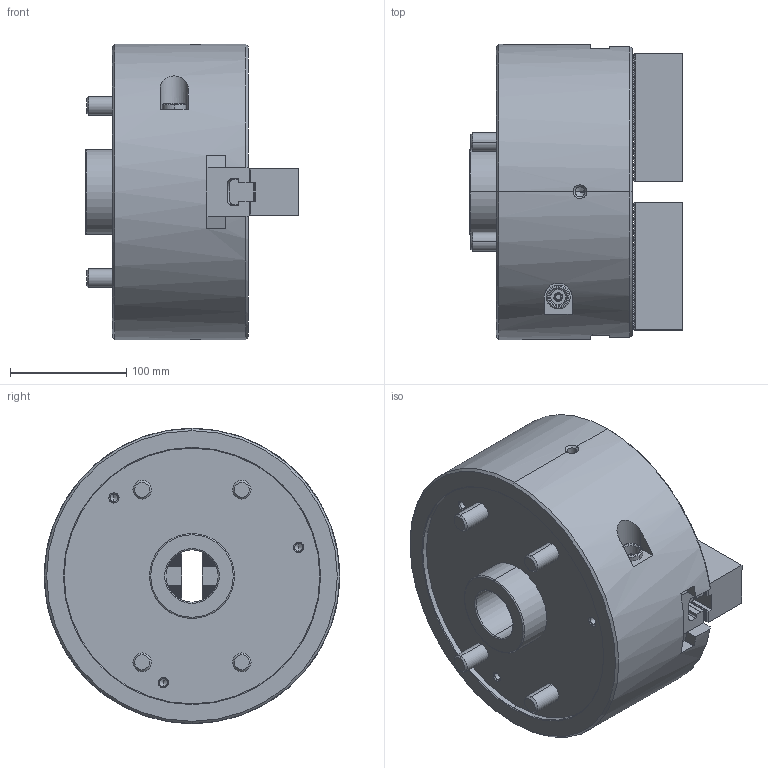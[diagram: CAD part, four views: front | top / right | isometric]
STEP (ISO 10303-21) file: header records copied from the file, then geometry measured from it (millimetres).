
FILE_DESCRIPTION (( 'STEP AP214' ), '1' );
FILE_NAME ('BLT210_OC.STEP', '2019-12-19T06:25:43', ( '' ), ( '' ), 'SwSTEP 2.0', 'SolidWorks 2017', '' );
FILE_SCHEMA (( 'AUTOMOTIVE_DESIGN' ));
Length unit declared in the file: millimetre
Products named in the file (5): 結合; 0030112030; 61P314663_ソフトジョー; 61P417262; BLT210_OC
Assembly tree (9 placements, depth 2):
  BLT210_OC
    61P417262  x2
    61P314663_ソフトジョー  x2
    0030112030  x4
    結合
Bounding box: 183.2 x 254 x 254 mm (x, y, z)
Volume: 5800172.7 mm3; surface area: 339859.6 mm2
Topology: 9 solids, 9 shells, 2166 faces, 6020 edges, 3894 vertices
Faces by surface type: plane 1797, cylinder 166, cone 149, torus 54
Entity records: 50202 total; most frequent: CARTESIAN_POINT 9917, ORIENTED_EDGE 8612, DIRECTION 7819, EDGE_CURVE 4306, LINE 3675, VECTOR 3675, VERTEX_POINT 2793, AXIS2_PLACEMENT_3D 2072
